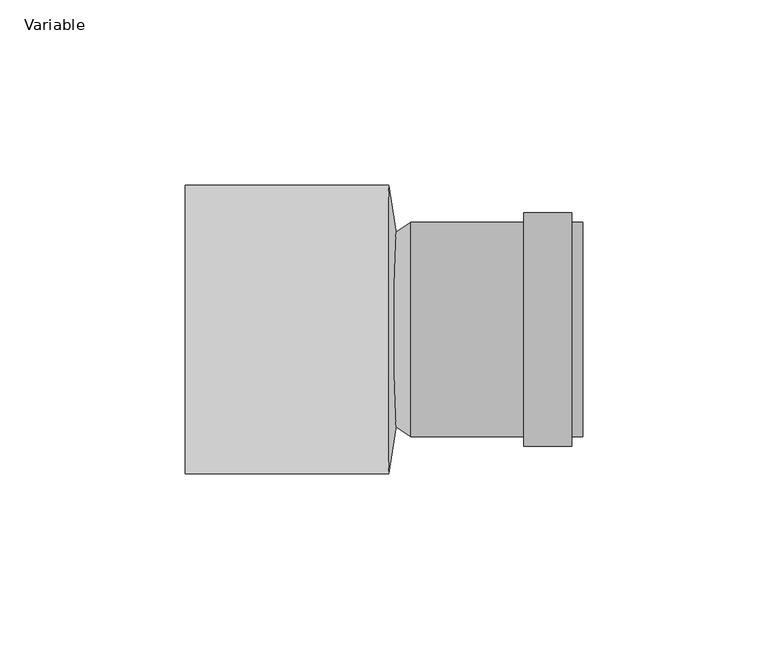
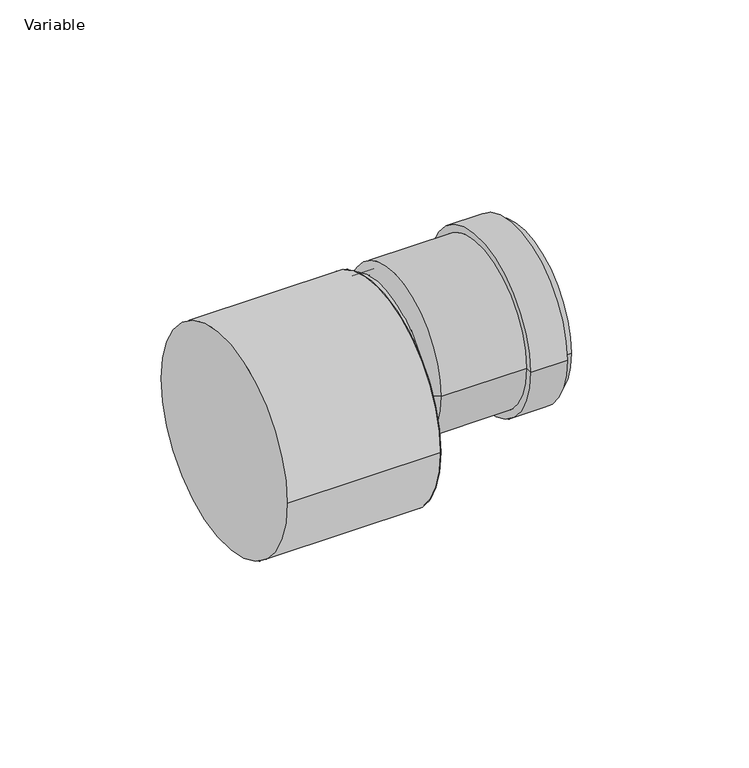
"""IFC4 building model written with IfcOpenShell, lengths in millimetres: pipe fitting geometry, AliaxisFR_Friaphon_Reducer_FR : Variable."""

from ifc_helpers import new_model, si_unit, point, frame, frame_2d, origin, origin_2d, place, context, project, spatial, polyline, circle_curve, trimmed, segment, composite_curve, outline, extrude, source, transform, mapped, element, save
from ifc_brep_helpers import plane_surface, cylinder_surface, revolved_surface, spline_surface, advanced_brep


def variable_b4e09c3a(model_context):
    return source(origin(), model_context, "Body", "SolidModel", [
        advanced_brep(
        [(77.75, -29.0, 0.0), (77.75, -26.0, 0.0), (77.75, 26.0, 0.0), (77.75, 29.0, 0.0), (61.75, -31.5, 0.0), (74.75, -31.5, 0.0), (74.75, 31.5, 0.0), (61.75, 31.5, 0.0), (61.75, -29.0, 0.0), (61.75, 29.0, 0.0), (31.25, -29.0, 0.0), (31.25, 29.0, 0.0), (26.75, -26.0, 0.0), (26.75, 26.0, 0.0), (74.75, -29.0, 0.0), (74.75, 29.0, 0.0)],
        [
            (0, 1),
            (1, 2, circle_curve(frame((77.75, 0.0, 0.0), z_axis=(-1.0, 0.0, 0.0), x_axis=(0.0, 1.0, 0.0)), 26.0)),
            (2, 3),
            (3, 0, circle_curve(frame((77.75, 0.0, 0.0), z_axis=(1.0, 0.0, 0.0), x_axis=(0.0, 1.0, 0.0)), 29.0)),
            (2, 1, circle_curve(frame((77.75, 0.0, 0.0), z_axis=(-1.0, 0.0, 0.0), x_axis=(0.0, 1.0, 0.0)), 26.0)),
            (0, 3, circle_curve(frame((77.75, 0.0, 0.0), z_axis=(1.0, 0.0, 0.0), x_axis=(0.0, 1.0, 0.0)), 29.0)),
            (4, 5),
            (5, 6, circle_curve(frame((74.75, 0.0, 0.0), z_axis=(-1.0, 0.0, 0.0), x_axis=(0.0, 1.0, 0.0)), 31.5)),
            (6, 7),
            (7, 4, circle_curve(frame((61.75, 0.0, 0.0), z_axis=(1.0, 0.0, 0.0), x_axis=(0.0, 1.0, 0.0)), 31.5)),
            (6, 5, circle_curve(frame((74.75, 0.0, 0.0), z_axis=(-1.0, 0.0, 0.0), x_axis=(0.0, 1.0, 0.0)), 31.5)),
            (4, 7, circle_curve(frame((61.75, 0.0, 0.0), z_axis=(1.0, 0.0, 0.0), x_axis=(0.0, 1.0, 0.0)), 31.5)),
            (8, 4),
            (7, 9),
            (9, 8, circle_curve(frame((61.75, 0.0, 0.0), z_axis=(1.0, 0.0, 0.0), x_axis=(0.0, 1.0, 0.0)), 29.0)),
            (8, 9, circle_curve(frame((61.75, 0.0, 0.0), z_axis=(1.0, 0.0, 0.0), x_axis=(0.0, 1.0, 0.0)), 29.0)),
            (10, 8),
            (9, 11),
            (11, 10, circle_curve(frame((31.25, 0.0, 0.0), z_axis=(1.0, 0.0, 0.0), x_axis=(0.0, 1.0, 0.0)), 29.0)),
            (10, 11, circle_curve(frame((31.25, 0.0, 0.0), z_axis=(1.0, 0.0, 0.0), x_axis=(0.0, 1.0, 0.0)), 29.0)),
            (1, 12),
            (12, 13, circle_curve(frame((26.75, 0.0, 0.0), z_axis=(-1.0, 0.0, 0.0), x_axis=(0.0, 1.0, 0.0)), 26.0)),
            (13, 2),
            (13, 12, circle_curve(frame((26.75, 0.0, 0.0), z_axis=(-1.0, 0.0, 0.0), x_axis=(0.0, 1.0, 0.0)), 26.0)),
            (12, 10),
            (11, 13),
            (14, 0),
            (3, 15),
            (15, 14, circle_curve(frame((74.75, 0.0, 0.0), z_axis=(1.0, 0.0, 0.0), x_axis=(0.0, 1.0, 0.0)), 29.0)),
            (14, 15, circle_curve(frame((74.75, 0.0, 0.0), z_axis=(1.0, 0.0, 0.0), x_axis=(0.0, 1.0, 0.0)), 29.0)),
            (5, 14),
            (15, 6),
        ],
        [
            plane_surface(frame((77.75, 0.0, 0.0), z_axis=(1.0, 0.0, 0.0), x_axis=(0.0, 1.0, 0.0))),
            cylinder_surface(frame((26.75, 0.0, 0.0), z_axis=(-1.0, 0.0, 0.0), x_axis=(0.0, 1.0, 0.0)), 31.5),
            plane_surface(frame((61.75, 0.0, 0.0), z_axis=(-1.0, 0.0, 0.0), x_axis=(0.0, 1.0, 0.0))),
            cylinder_surface(frame((26.75, 0.0, 0.0), z_axis=(-1.0, 0.0, 0.0), x_axis=(0.0, 1.0, 0.0)), 29.0),
            revolved_surface(polyline([(26.75, 26.0, 0.0), (77.75, 26.0, 0.0)]), (26.75, 0.0, 0.0), (-1.0, 0.0, 0.0)),
            revolved_surface(polyline([(31.25, 29.0, 0.0), (26.75, 26.0, 0.0)]), (26.75, 0.0, 0.0), (-1.0, 0.0, 0.0)),
            plane_surface(frame((74.75, 0.0, 0.0), z_axis=(1.0, 0.0, 0.0), x_axis=(0.0, 1.0, 0.0))),
        ],
        [
            (0, [[1, 2, 3, 4]]),
            (0, [[-3, 5, -1, 6]]),
            (1, [[7, 8, 9, 10]]),
            (1, [[-9, 11, -7, 12]]),
            (2, [[13, -10, 14, 15]]),
            (2, [[-14, -12, -13, 16]]),
            (3, [[17, -15, 18, 19]]),
            (3, [[-18, -16, -17, 20]]),
            (4, [[21, 22, 23, -2]]),
            (4, [[-23, 24, -21, -5]]),
            (5, [[25, -19, 26, -22]]),
            (5, [[-26, -20, -25, -24]]),
            (3, [[27, -4, 28, 29]]),
            (3, [[-28, -6, -27, 30]]),
            (6, [[31, -29, 32, -8]]),
            (6, [[-32, -30, -31, -11]]),
        ],
    ),
        extrude(outline(composite_curve([segment(trimmed(circle_curve(origin_2d(), 26.0), [point((-26.0, 0.0))], [point((26.0, 0.0))], False, "CARTESIAN"), True, "CONTINUOUS"), segment(trimmed(circle_curve(origin_2d(), 26.0), [point((26.0, 0.0))], [point((-26.0, 0.0))], False, "CARTESIAN"), True, "CONTINUOUS")], self_intersect=False)), frame((27.25, 0.0, 0.0), z_axis=(1.0, 0.0, 0.0), x_axis=(0.0, 1.0, 0.0)), (0.0, 0.0, 1.0), 2.5),
        advanced_brep(
        [(27.25, -26.0, 0.0), (27.25, 26.0, 0.0), (25.25, -39.0, -13.0), (25.25, 39.0, -13.0)],
        [
            (0, 1, circle_curve(frame((27.25, 0.0, 0.0), z_axis=(1.0, 0.0, 0.0), x_axis=(0.0, 1.0, 0.0)), 26.0)),
            (1, 0, circle_curve(frame((27.25, 0.0, 0.0), z_axis=(1.0, 0.0, 0.0), x_axis=(0.0, 1.0, 0.0)), 26.0)),
            (2, 3, circle_curve(frame((25.25, 0.0, -13.0), z_axis=(-1.0, 0.0, 0.0), x_axis=(0.0, 1.0, 0.0)), 39.0)),
            (3, 2, circle_curve(frame((25.25, 0.0, -13.0), z_axis=(-1.0, 0.0, 0.0), x_axis=(0.0, 1.0, 0.0)), 39.0)),
            (2, 0),
            (1, 3),
        ],
        [
            plane_surface(frame((27.25, 0.0, 0.0), z_axis=(1.0, 0.0, 0.0), x_axis=(0.0, 0.0, 1.0))),
            plane_surface(frame((25.25, 0.0, -13.0), z_axis=(-1.0, 0.0, 0.0), x_axis=(0.0, 0.0, 1.0))),
            spline_surface(1, 2, [[(25.25, -39.0, -13.0), (25.25, -39.0, 26.0), (25.25, 0.0, 26.0), (25.25, 39.0, 26.0), (25.25, 39.0, -13.0)], [(27.25, -26.0, 0.0), (27.25, -26.0, 26.0), (27.25, 0.0, 26.0), (27.25, 26.0, 26.0), (27.25, 26.0, 0.0)]], [2, 2], [3, 2, 3], [0.0, 1.0], [0.0, 1.0, 2.0], weights=[[1.0, 0.7071067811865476, 1.0, 0.7071067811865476, 1.0], [1.0, 0.7071067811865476, 1.0, 0.7071067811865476, 1.0]]),
            spline_surface(1, 2, [[(25.25, 39.0, -13.0), (25.25, 39.0, -52.0), (25.25, 0.0, -52.0), (25.25, -39.0, -52.0), (25.25, -39.0, -13.0)], [(27.25, 26.0, 0.0), (27.25, 26.0, -26.0), (27.25, 0.0, -26.0), (27.25, -26.0, -26.0), (27.25, -26.0, 0.0)]], [2, 2], [3, 2, 3], [0.0, 1.0], [0.0, 1.0, 2.0], weights=[[1.0, 0.7071067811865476, 1.0, 0.7071067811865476, 1.0], [1.0, 0.7071067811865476, 1.0, 0.7071067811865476, 1.0]]),
        ],
        [
            (0, [[1, 2]]),
            (1, [[3, 4]]),
            (2, [[5, -2, 6, -3]]),
            (3, [[-6, -1, -5, -4]]),
        ],
    ),
        extrude(outline(composite_curve([segment(trimmed(circle_curve(frame_2d((0.0, -13.0)), 39.0), [point((-39.0, -13.0))], [point((39.0, -13.0))], False, "CARTESIAN"), True, "CONTINUOUS"), segment(trimmed(circle_curve(frame_2d((0.0, -13.0)), 39.0), [point((39.0, -13.0))], [point((-39.0, -13.0))], False, "CARTESIAN"), True, "CONTINUOUS")], self_intersect=False)), frame((-29.75, 0.0, 0.0), z_axis=(1.0, 0.0, 0.0), x_axis=(0.0, 1.0, 0.0)), (0.0, 0.0, 1.0), 55.0),
    ])


if __name__ == "__main__":
    model = new_model("IFC4")
    model_context = context("Model", 3, world=origin())
    ifc_project = project(units=[si_unit("LENGTHUNIT", "METRE", prefix="MILLI")], contexts=[model_context])
    site = spatial("IfcSite", under=ifc_project)
    building = spatial("IfcBuilding", under=site)
    placement = place(None, origin())
    variable_shape = variable_b4e09c3a(model_context)
    element("IfcPipeFitting", 1, ObjectType="AliaxisFR_Friaphon_Reducer_FR : Variable", at=placement, inside=building, context=model_context, shape_type="MappedRepresentation", body=[
        mapped(variable_shape, transform((0.0, 0.0, 0.0), x_axis=(1.0, 0.0, 0.0), y_axis=(0.0, 1.0, 0.0), z_axis=(0.0, 0.0, 1.0))),
    ])
    save(model, "model.ifc")
